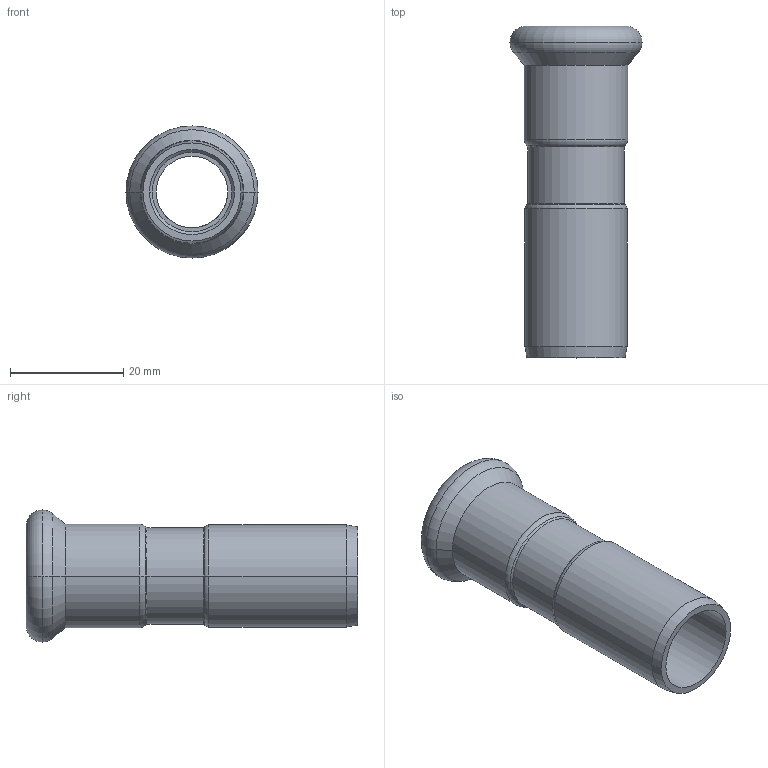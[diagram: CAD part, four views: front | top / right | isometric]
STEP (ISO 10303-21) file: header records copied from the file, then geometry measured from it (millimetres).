
FILE_DESCRIPTION(('CoCreate Modeling STEP Export'),'2;1');
FILE_NAME('C1407 15x18.stp','2014-11-07T14:27:52',(''),(''),'CoCreate Modeling STEP processor for AP214 (Solid Model)','CoCreate Modeling 17.00A 17-Jun-2010 (C) Parametric Technology GmbH','');
FILE_SCHEMA(('AUTOMOTIVE_DESIGN { 1 0 10303 214 1 1 1 1 }'));
Length unit declared in the file: millimetre
Products named in the file (2): C1407_15x18
Assembly tree (1 placements, depth 2):
  C1407_15x18
    C1407_15x18
Bounding box: 23.3 x 58.5 x 23.3 mm (x, y, z)
Volume: 5346.5 mm3; surface area: 6526.2 mm2
Topology: 1 solids, 1 shells, 39 faces, 79 edges, 45 vertices
Faces by surface type: cylinder 16, cone 10, torus 8, plane 5
Entity records: 866 total; most frequent: ORIENTED_EDGE 158, DIRECTION 132, CARTESIAN_POINT 124, EDGE_CURVE 79, AXIS2_PLACEMENT_3D 53, VERTEX_POINT 45, EDGE_LOOP 44, FACE_OUTER_BOUND 39
